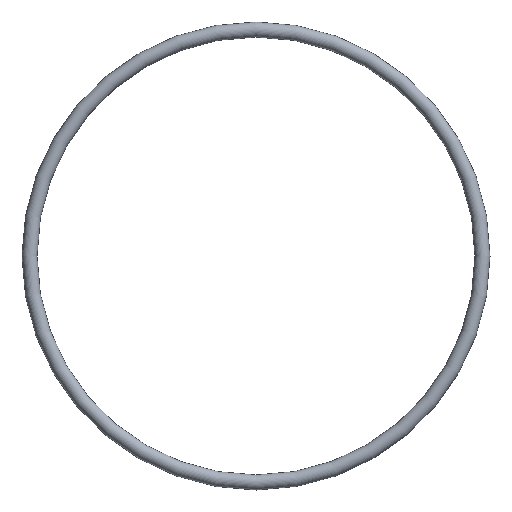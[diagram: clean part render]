
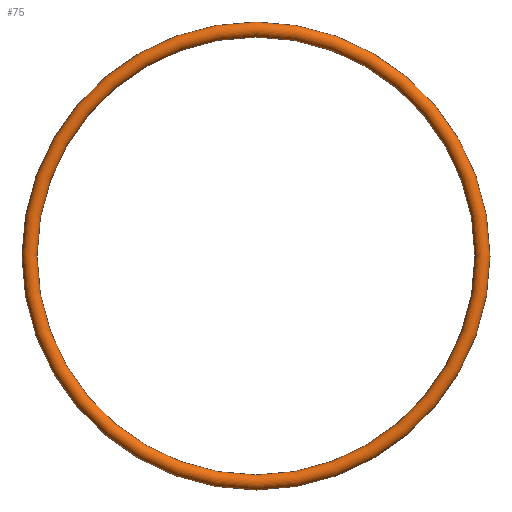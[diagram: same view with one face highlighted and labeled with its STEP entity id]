
A CAD part, front view. The second image highlights one B-rep face of the part: STEP entity #75.
In plain terms, the highlighted toroidal (fillet/blend) face has major radius 30 mm and minor radius 1 mm.
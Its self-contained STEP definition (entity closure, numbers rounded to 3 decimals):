
#75 = ADVANCED_FACE( '', ( #77 ), #78, .T. );
#77 = FACE_BOUND( '', #79, .T. );
#78 = TOROIDAL_SURFACE( '', #80, 30., 1. );
#79 = VERTEX_LOOP( '', #81 );
#80 = AXIS2_PLACEMENT_3D( '', #82, #83, #84 );
#81 = VERTEX_POINT( '', #85 );
#82 = CARTESIAN_POINT( '', ( 0., 0., 0. ) );
#83 = DIRECTION( '', ( 0., -1., 0. ) );
#84 = DIRECTION( '', ( 0., 0., -1. ) );
#85 = CARTESIAN_POINT( '', ( 0., 0., -31. ) );
